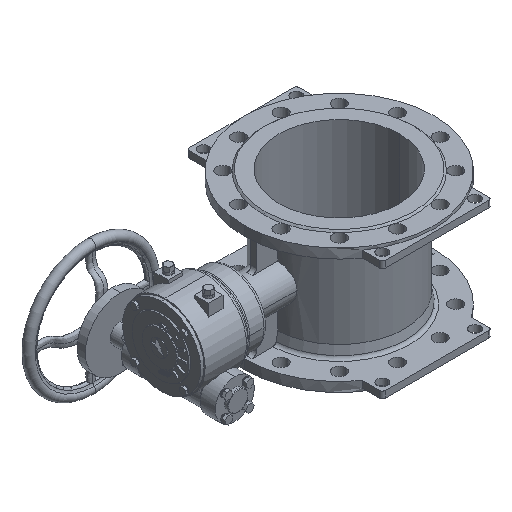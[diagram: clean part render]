
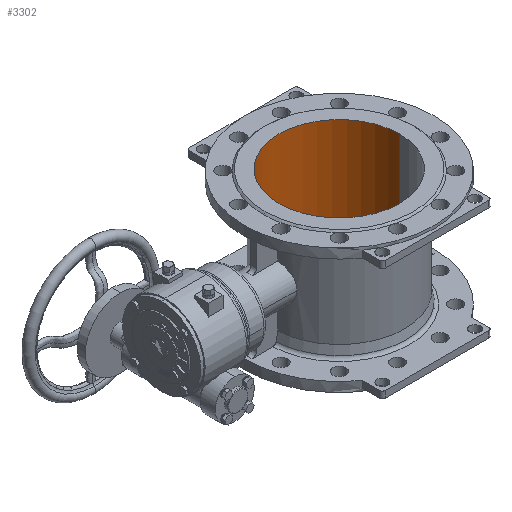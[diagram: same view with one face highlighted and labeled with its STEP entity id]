
A CAD part, isometric view. The second image highlights one B-rep face of the part: STEP entity #3302.
In plain terms, the highlighted cylindrical face has radius 108 mm (diameter 216 mm), a partial arc.
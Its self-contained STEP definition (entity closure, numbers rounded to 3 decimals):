
#362 = VERTEX_POINT ( 'NONE', #8235 ) ;
#371 = EDGE_CURVE ( 'NONE', #25046, #362, #8267, .T. ) ;
#1375 = CARTESIAN_POINT ( 'NONE',  ( -108., 0., 115. ) ) ;
#1425 = DIRECTION ( 'NONE',  ( 0., 0., -1. ) ) ;
#1426 = VECTOR ( 'NONE', #1425, 1000. ) ;
#1427 = CARTESIAN_POINT ( 'NONE',  ( 108., 0., 115. ) ) ;
#1429 = CARTESIAN_POINT ( 'NONE',  ( 108., 0., -115. ) ) ;
#1430 = LINE ( 'NONE', #1427, #1426 ) ;
#1448 = CARTESIAN_POINT ( 'NONE',  ( 108., 0., 115. ) ) ;
#3302 = ADVANCED_FACE ( 'NONE', ( #14217 ), #14775, .F. ) ;
#3303 = ORIENTED_EDGE ( 'NONE', *, *, #371, .T. ) ;
#3304 = ORIENTED_EDGE ( 'NONE', *, *, #25914, .F. ) ;
#3314 = EDGE_LOOP ( 'NONE', ( #3304, #3348, #3303, #3350 ) ) ;
#3348 = ORIENTED_EDGE ( 'NONE', *, *, #6998, .F. ) ;
#3350 = ORIENTED_EDGE ( 'NONE', *, *, #7003, .T. ) ;
#6998 = EDGE_CURVE ( 'NONE', #25046, #25620, #22855, .T. ) ;
#7003 = EDGE_CURVE ( 'NONE', #362, #26110, #22848, .T. ) ;
#8235 = CARTESIAN_POINT ( 'NONE',  ( -108., 0., -115. ) ) ;
#8264 = DIRECTION ( 'NONE',  ( 0., 0., -1. ) ) ;
#8265 = VECTOR ( 'NONE', #8264, 1000. ) ;
#8266 = CARTESIAN_POINT ( 'NONE',  ( -108., 0., 115. ) ) ;
#8267 = LINE ( 'NONE', #8266, #8265 ) ;
#14217 = FACE_OUTER_BOUND ( 'NONE', #3314, .T. ) ;
#14775 = CYLINDRICAL_SURFACE ( 'NONE', #14780, 108. ) ;
#14776 = DIRECTION ( 'NONE',  ( -1., 0., 0. ) ) ;
#14777 = DIRECTION ( 'NONE',  ( 0., 0., -1. ) ) ;
#14778 = CARTESIAN_POINT ( 'NONE',  ( 0., 0., 115. ) ) ;
#14780 = AXIS2_PLACEMENT_3D ( 'NONE', #14778, #14777, #14776 ) ;
#22214 = DIRECTION ( 'NONE',  ( 0., 0., -1. ) ) ;
#22220 = CARTESIAN_POINT ( 'NONE',  ( 0., 0., -115. ) ) ;
#22418 = DIRECTION ( 'NONE',  ( -1., 0., 0. ) ) ;
#22844 = DIRECTION ( 'NONE',  ( -1., 0., 0. ) ) ;
#22845 = DIRECTION ( 'NONE',  ( 0., 0., -1. ) ) ;
#22846 = CARTESIAN_POINT ( 'NONE',  ( 0., 0., 115. ) ) ;
#22847 = AXIS2_PLACEMENT_3D ( 'NONE', #22846, #22845, #22844 ) ;
#22848 = CIRCLE ( 'NONE', #22865, 108. ) ;
#22855 = CIRCLE ( 'NONE', #22847, 108. ) ;
#22865 = AXIS2_PLACEMENT_3D ( 'NONE', #22220, #22214, #22418 ) ;
#25046 = VERTEX_POINT ( 'NONE', #1375 ) ;
#25620 = VERTEX_POINT ( 'NONE', #1448 ) ;
#25914 = EDGE_CURVE ( 'NONE', #25620, #26110, #1430, .T. ) ;
#26110 = VERTEX_POINT ( 'NONE', #1429 ) ;
